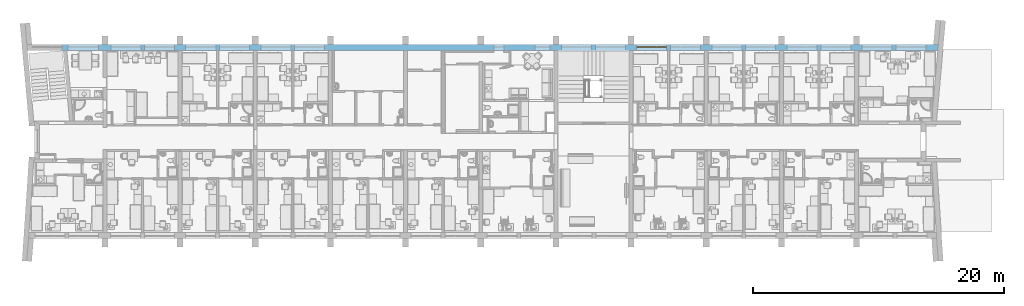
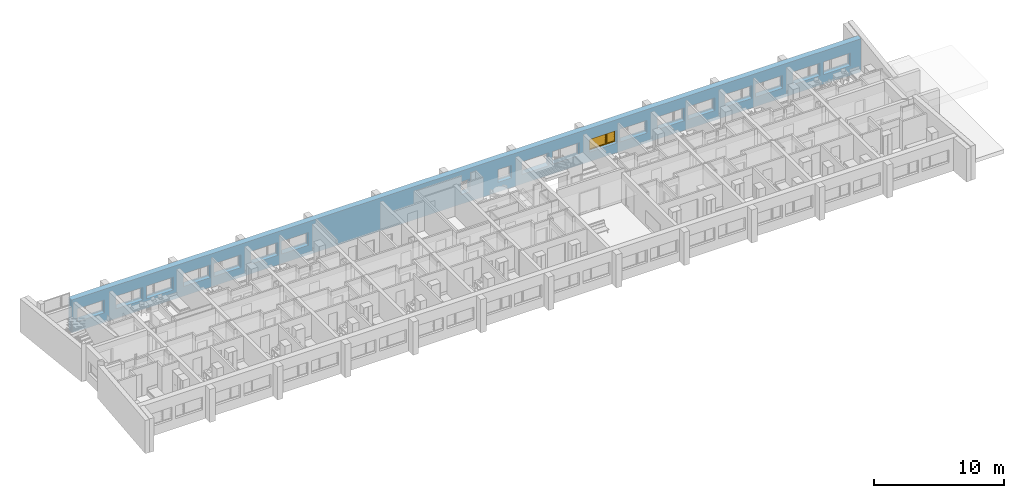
# One storey, part 26 of 172: 1 window, 19 openings, plus 1 element that does not belong to this part.
"""IFC2X3 building model written with IfcOpenShell, lengths in millimetres."""

from ifc_helpers import new_model, entity, si_unit, converted_unit, money_unit, direction, frame, origin_with_axes, place, context, subcontext, project, spatial, polyline, outline, extrude, open_shell, faceted_brep, surface_model, source, transform, mapped, material, material_list, layer, layer_set, layer_usage, type_object, element, fill, save


model = new_model("IFC2X3")

# Units and contexts
model_context = context("Model", 3, precision=1e-05, world=origin_with_axes(), true_north=direction((0.0, 1.0)))
body_context = subcontext(model_context, "Body", "Model", "MODEL_VIEW")
ifc_project = project(units=[si_unit("LENGTHUNIT", "METRE", prefix="MILLI"), si_unit("AREAUNIT", "SQUARE_METRE"), si_unit("VOLUMEUNIT", "CUBIC_METRE"), converted_unit("PLANEANGLEUNIT", "DEGREE", entity("IfcPlaneAngleMeasure", 0.0174532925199), si_unit("PLANEANGLEUNIT", "RADIAN"), dimensions=[0, 0, 0, 0, 0, 0, 0]), si_unit("SOLIDANGLEUNIT", "STERADIAN"), money_unit("USD"), converted_unit("TIMEUNIT", "Year", entity("IfcTimeMeasure", 31556926.0), si_unit("TIMEUNIT", "SECOND"), dimensions=[0, 0, 0, 0, 0, 0, 0]), si_unit("MASSUNIT", "GRAM"), si_unit("THERMODYNAMICTEMPERATUREUNIT", "DEGREE_CELSIUS"), si_unit("LUMINOUSINTENSITYUNIT", "LUMEN")], contexts=[model_context])

# Site, building, storey
site_placement = place(None, origin_with_axes())
site = spatial("IfcSite", under=ifc_project, at=site_placement, Name="Site", CompositionType="ELEMENT")
building_placement = place(site_placement, origin_with_axes())
building = spatial("IfcBuilding", under=site, at=building_placement, Name="Building", CompositionType="ELEMENT")
storey_placement = place(building_placement, frame((0.0, 0.0, 3200.0), z_axis=(0.0, 0.0, 1.0), x_axis=(1.0, 0.0, 0.0)))
storey = spatial("IfcBuildingStorey", under=building, at=storey_placement, Name="3KORRUS", CompositionType="ELEMENT", Elevation=3200.0)

# Wall, openings, window
ifc_material_1 = material(Name="Olemasolevad seinad tellis, uus viimistlus")
ifc_layer = layer(ifc_material_1, 500.0, ventilated="UNKNOWN")
ifc_layer_set = layer_set([ifc_layer], Name="Olemasolevad seinad tellis, uus viimistlus 500")
ifc_layer_usage = layer_usage(ifc_layer_set, "AXIS2", "POSITIVE", -100.0)
wall_type = type_object("IfcWallType", Name="Olemasolevad seinad tellis, uus viimistlus 500", PredefinedType="NOTDEFINED")
wall_placement = place(storey_placement, frame((-51569.3388124, -5039.6041088, 0.0), z_axis=(0.0, 0.0, 1.0), x_axis=(1.0, 0.0, 0.0)))
wall = element("IfcWallStandardCase", 1, at=wall_placement, inside=storey, type_object=wall_type, material=ifc_layer_usage, Name="VS1", ObjectType="VS1", context=body_context, shape_type="SweptSolid", body=[
    extrude(outline(polyline([(0.0, -100.0), (69914.7195482, -100.0), (69959.6995146, 400.0), (0.0, 400.0), (0.0, -100.0)])), origin_with_axes(), (0.0, 0.0, 1.0), 3100.0),
])
opening_1_placement = place(wall_placement, frame((34879.0421091, 0.0, 900.0), z_axis=(0.0, 0.0, 1.0), x_axis=(1.0, 0.0, 0.0)))
element("IfcOpeningElement", 2, at=opening_1_placement, cuts=wall, Name="WD - 001", context=body_context, shape_type="SweptSolid", body=[
    extrude(outline(polyline([(-400.0, 1200.0), (-400.0, 0.0), (400.0, 0.0), (400.0, 1200.0), (-400.0, 1200.0)])), frame((0.0, 200.0, 0.0), z_axis=(0.0, -1.0, 0.0), x_axis=(1.0, 0.0, 0.0)), (0.0, 0.0, 1.0), 800.0),
    extrude(outline(polyline([(-400.0, 0.0), (-400.0, -1200.0), (400.0, -1200.0), (400.0, 0.0), (-400.0, 0.0)])), frame((0.0, 200.0, 0.0), z_axis=(0.0, 1.0, 0.0), x_axis=(1.0, 0.0, 0.0)), (0.0, 0.0, 1.0), 700.0),
])
opening_2_placement = place(wall_placement, frame((38352.6323068, 0.0, 900.0), z_axis=(0.0, 0.0, 1.0), x_axis=(1.0, 0.0, 0.0)))
element("IfcOpeningElement", 3, at=opening_2_placement, cuts=wall, Name="A3", context=body_context, shape_type="SweptSolid", body=[
    extrude(outline(polyline([(-600.0, 1200.0), (-600.0, 0.0), (600.0, 0.0), (600.0, 1200.0), (-600.0, 1200.0)])), frame((0.0, 200.0, 0.0), z_axis=(0.0, -1.0, 0.0), x_axis=(1.0, 0.0, 0.0)), (0.0, 0.0, 1.0), 800.0),
    extrude(outline(polyline([(-600.0, 0.0), (-600.0, -1200.0), (600.0, -1200.0), (600.0, 0.0), (-600.0, 0.0)])), frame((0.0, 200.0, 0.0), z_axis=(0.0, 1.0, 0.0), x_axis=(1.0, 0.0, 0.0)), (0.0, 0.0, 1.0), 700.0),
])
opening_3_placement = place(wall_placement, frame((1700.0, 0.0, 900.0), z_axis=(0.0, 0.0, 1.0), x_axis=(1.0, 0.0, 0.0)))
element("IfcOpeningElement", 4, at=opening_3_placement, cuts=wall, Name="A1", context=body_context, shape_type="SweptSolid", body=[
    extrude(outline(polyline([(1200.0, 1200.0), (-1200.0, 1200.0), (-1200.0, 0.0), (1200.0, 0.0), (1200.0, 1200.0)])), frame((0.0, 200.0, 0.0), z_axis=(0.0, -1.0, 0.0), x_axis=(1.0, 0.0, 0.0)), (0.0, 0.0, 1.0), 800.0),
    extrude(outline(polyline([(1200.0, 0.0), (-1200.0, 0.0), (-1200.0, -1200.0), (1200.0, -1200.0), (1200.0, 0.0)])), frame((0.0, 200.0, 0.0), z_axis=(0.0, 1.0, 0.0), x_axis=(1.0, 0.0, 0.0)), (0.0, 0.0, 1.0), 700.0),
])
opening_4_placement = place(wall_placement, frame((7795.91085613, 0.0, 900.0), z_axis=(0.0, 0.0, 1.0), x_axis=(1.0, 0.0, 0.0)))
element("IfcOpeningElement", 5, at=opening_4_placement, cuts=wall, Name="A1", context=body_context, shape_type="SweptSolid", body=[
    extrude(outline(polyline([(1200.0, 1200.0), (-1200.0, 1200.0), (-1200.0, 0.0), (1200.0, 0.0), (1200.0, 1200.0)])), frame((0.0, 200.0, 0.0), z_axis=(0.0, -1.0, 0.0), x_axis=(1.0, 0.0, 0.0)), (0.0, 0.0, 1.0), 800.0),
    extrude(outline(polyline([(1200.0, 0.0), (-1200.0, 0.0), (-1200.0, -1200.0), (1200.0, -1200.0), (1200.0, 0.0)])), frame((0.0, 200.0, 0.0), z_axis=(0.0, 1.0, 0.0), x_axis=(1.0, 0.0, 0.0)), (0.0, 0.0, 1.0), 700.0),
])
opening_5_placement = place(wall_placement, frame((5095.91085613, 0.0, 900.0), z_axis=(0.0, 0.0, 1.0), x_axis=(1.0, 0.0, 0.0)))
element("IfcOpeningElement", 6, at=opening_5_placement, cuts=wall, Name="A2", context=body_context, shape_type="SweptSolid", body=[
    extrude(outline(polyline([(-1200.0, 1200.0), (-1200.0, 0.0), (1200.0, 0.0), (1200.0, 1200.0), (-1200.0, 1200.0)])), frame((0.0, 200.0, 0.0), z_axis=(0.0, -1.0, 0.0), x_axis=(1.0, 0.0, 0.0)), (0.0, 0.0, 1.0), 800.0),
    extrude(outline(polyline([(-1200.0, 0.0), (-1200.0, -1200.0), (1200.0, -1200.0), (1200.0, 0.0), (-1200.0, 0.0)])), frame((0.0, 200.0, 0.0), z_axis=(0.0, 1.0, 0.0), x_axis=(1.0, 0.0, 0.0)), (0.0, 0.0, 1.0), 700.0),
])
opening_6_placement = place(wall_placement, frame((13779.0421091, 0.0, 900.0), z_axis=(0.0, 0.0, 1.0), x_axis=(1.0, 0.0, 0.0)))
element("IfcOpeningElement", 7, at=opening_6_placement, cuts=wall, Name="A1", context=body_context, shape_type="SweptSolid", body=[
    extrude(outline(polyline([(1200.0, 1200.0), (-1200.0, 1200.0), (-1200.0, 0.0), (1200.0, 0.0), (1200.0, 1200.0)])), frame((0.0, 200.0, 0.0), z_axis=(0.0, -1.0, 0.0), x_axis=(1.0, 0.0, 0.0)), (0.0, 0.0, 1.0), 800.0),
    extrude(outline(polyline([(1200.0, 0.0), (-1200.0, 0.0), (-1200.0, -1200.0), (1200.0, -1200.0), (1200.0, 0.0)])), frame((0.0, 200.0, 0.0), z_axis=(0.0, 1.0, 0.0), x_axis=(1.0, 0.0, 0.0)), (0.0, 0.0, 1.0), 700.0),
])
opening_7_placement = place(wall_placement, frame((11079.0421091, 0.0, 900.0), z_axis=(0.0, 0.0, 1.0), x_axis=(1.0, 0.0, 0.0)))
element("IfcOpeningElement", 8, at=opening_7_placement, cuts=wall, Name="A2", context=body_context, shape_type="SweptSolid", body=[
    extrude(outline(polyline([(-1200.0, 1200.0), (-1200.0, 0.0), (1200.0, 0.0), (1200.0, 1200.0), (-1200.0, 1200.0)])), frame((0.0, 200.0, 0.0), z_axis=(0.0, -1.0, 0.0), x_axis=(1.0, 0.0, 0.0)), (0.0, 0.0, 1.0), 800.0),
    extrude(outline(polyline([(-1200.0, 0.0), (-1200.0, -1200.0), (1200.0, -1200.0), (1200.0, 0.0), (-1200.0, 0.0)])), frame((0.0, 200.0, 0.0), z_axis=(0.0, 1.0, 0.0), x_axis=(1.0, 0.0, 0.0)), (0.0, 0.0, 1.0), 700.0),
])
opening_8_placement = place(wall_placement, frame((43769.0421091, 0.0, 900.0), z_axis=(0.0, 0.0, 1.0), x_axis=(1.0, 0.0, 0.0)))
element("IfcOpeningElement", 9, at=opening_8_placement, cuts=wall, Name="A1", context=body_context, shape_type="SweptSolid", body=[
    extrude(outline(polyline([(1200.0, 1200.0), (-1200.0, 1200.0), (-1200.0, 0.0), (1200.0, 0.0), (1200.0, 1200.0)])), frame((0.0, 200.0, 0.0), z_axis=(0.0, -1.0, 0.0), x_axis=(1.0, 0.0, 0.0)), (0.0, 0.0, 1.0), 800.0),
    extrude(outline(polyline([(1200.0, 0.0), (-1200.0, 0.0), (-1200.0, -1200.0), (1200.0, -1200.0), (1200.0, 0.0)])), frame((0.0, 200.0, 0.0), z_axis=(0.0, 1.0, 0.0), x_axis=(1.0, 0.0, 0.0)), (0.0, 0.0, 1.0), 700.0),
])
opening_9_placement = place(wall_placement, frame((41069.0421091, 0.0, 900.0), z_axis=(0.0, 0.0, 1.0), x_axis=(1.0, 0.0, 0.0)))
element("IfcOpeningElement", 10, at=opening_9_placement, cuts=wall, Name="A2", context=body_context, shape_type="SweptSolid", body=[
    extrude(outline(polyline([(-1200.0, 1200.0), (-1200.0, 0.0), (1200.0, 0.0), (1200.0, 1200.0), (-1200.0, 1200.0)])), frame((0.0, 200.0, 0.0), z_axis=(0.0, -1.0, 0.0), x_axis=(1.0, 0.0, 0.0)), (0.0, 0.0, 1.0), 800.0),
    extrude(outline(polyline([(-1200.0, 0.0), (-1200.0, -1200.0), (1200.0, -1200.0), (1200.0, 0.0), (-1200.0, 0.0)])), frame((0.0, 200.0, 0.0), z_axis=(0.0, 1.0, 0.0), x_axis=(1.0, 0.0, 0.0)), (0.0, 0.0, 1.0), 700.0),
])
opening_10_placement = place(wall_placement, frame((49769.0421091, 0.0, 900.0), z_axis=(0.0, 0.0, 1.0), x_axis=(1.0, 0.0, 0.0)))
element("IfcOpeningElement", 11, at=opening_10_placement, cuts=wall, Name="A1", context=body_context, shape_type="SweptSolid", body=[
    extrude(outline(polyline([(1200.0, 1200.0), (-1200.0, 1200.0), (-1200.0, 0.0), (1200.0, 0.0), (1200.0, 1200.0)])), frame((0.0, 200.0, 0.0), z_axis=(0.0, -1.0, 0.0), x_axis=(1.0, 0.0, 0.0)), (0.0, 0.0, 1.0), 800.0),
    extrude(outline(polyline([(1200.0, 0.0), (-1200.0, 0.0), (-1200.0, -1200.0), (1200.0, -1200.0), (1200.0, 0.0)])), frame((0.0, 200.0, 0.0), z_axis=(0.0, 1.0, 0.0), x_axis=(1.0, 0.0, 0.0)), (0.0, 0.0, 1.0), 700.0),
])
opening_11_placement = place(wall_placement, frame((47069.0421091, 0.0, 900.0), z_axis=(0.0, 0.0, 1.0), x_axis=(1.0, 0.0, 0.0)))
opening_11 = element("IfcOpeningElement", 12, at=opening_11_placement, cuts=wall, Name="A2", context=body_context, shape_type="SweptSolid", body=[
    extrude(outline(polyline([(-1200.0, 1200.0), (-1200.0, 0.0), (1200.0, 0.0), (1200.0, 1200.0), (-1200.0, 1200.0)])), frame((0.0, 200.0, 0.0), z_axis=(0.0, -1.0, 0.0), x_axis=(1.0, 0.0, 0.0)), (0.0, 0.0, 1.0), 800.0),
    extrude(outline(polyline([(-1200.0, 0.0), (-1200.0, -1200.0), (1200.0, -1200.0), (1200.0, 0.0), (-1200.0, 0.0)])), frame((0.0, 200.0, 0.0), z_axis=(0.0, 1.0, 0.0), x_axis=(1.0, 0.0, 0.0)), (0.0, 0.0, 1.0), 700.0),
])
opening_12_placement = place(wall_placement, frame((55769.0421091, 0.0, 900.0), z_axis=(0.0, 0.0, 1.0), x_axis=(1.0, 0.0, 0.0)))
element("IfcOpeningElement", 13, at=opening_12_placement, cuts=wall, Name="A1", context=body_context, shape_type="SweptSolid", body=[
    extrude(outline(polyline([(1200.0, 1200.0), (-1200.0, 1200.0), (-1200.0, 0.0), (1200.0, 0.0), (1200.0, 1200.0)])), frame((0.0, 200.0, 0.0), z_axis=(0.0, -1.0, 0.0), x_axis=(1.0, 0.0, 0.0)), (0.0, 0.0, 1.0), 800.0),
    extrude(outline(polyline([(1200.0, 0.0), (-1200.0, 0.0), (-1200.0, -1200.0), (1200.0, -1200.0), (1200.0, 0.0)])), frame((0.0, 200.0, 0.0), z_axis=(0.0, 1.0, 0.0), x_axis=(1.0, 0.0, 0.0)), (0.0, 0.0, 1.0), 700.0),
])
opening_13_placement = place(wall_placement, frame((53069.0421091, 0.0, 900.0), z_axis=(0.0, 0.0, 1.0), x_axis=(1.0, 0.0, 0.0)))
element("IfcOpeningElement", 14, at=opening_13_placement, cuts=wall, Name="A2", context=body_context, shape_type="SweptSolid", body=[
    extrude(outline(polyline([(-1200.0, 1200.0), (-1200.0, 0.0), (1200.0, 0.0), (1200.0, 1200.0), (-1200.0, 1200.0)])), frame((0.0, 200.0, 0.0), z_axis=(0.0, -1.0, 0.0), x_axis=(1.0, 0.0, 0.0)), (0.0, 0.0, 1.0), 800.0),
    extrude(outline(polyline([(-1200.0, 0.0), (-1200.0, -1200.0), (1200.0, -1200.0), (1200.0, 0.0), (-1200.0, 0.0)])), frame((0.0, 200.0, 0.0), z_axis=(0.0, 1.0, 0.0), x_axis=(1.0, 0.0, 0.0)), (0.0, 0.0, 1.0), 700.0),
])
opening_14_placement = place(wall_placement, frame((61769.0421091, 0.0, 900.0), z_axis=(0.0, 0.0, 1.0), x_axis=(1.0, 0.0, 0.0)))
element("IfcOpeningElement", 15, at=opening_14_placement, cuts=wall, Name="A1", context=body_context, shape_type="SweptSolid", body=[
    extrude(outline(polyline([(1200.0, 1200.0), (-1200.0, 1200.0), (-1200.0, 0.0), (1200.0, 0.0), (1200.0, 1200.0)])), frame((0.0, 200.0, 0.0), z_axis=(0.0, -1.0, 0.0), x_axis=(1.0, 0.0, 0.0)), (0.0, 0.0, 1.0), 800.0),
    extrude(outline(polyline([(1200.0, 0.0), (-1200.0, 0.0), (-1200.0, -1200.0), (1200.0, -1200.0), (1200.0, 0.0)])), frame((0.0, 200.0, 0.0), z_axis=(0.0, 1.0, 0.0), x_axis=(1.0, 0.0, 0.0)), (0.0, 0.0, 1.0), 700.0),
])
opening_15_placement = place(wall_placement, frame((59069.0421091, 0.0, 900.0), z_axis=(0.0, 0.0, 1.0), x_axis=(1.0, 0.0, 0.0)))
element("IfcOpeningElement", 16, at=opening_15_placement, cuts=wall, Name="A2", context=body_context, shape_type="SweptSolid", body=[
    extrude(outline(polyline([(-1200.0, 1200.0), (-1200.0, 0.0), (1200.0, 0.0), (1200.0, 1200.0), (-1200.0, 1200.0)])), frame((0.0, 200.0, 0.0), z_axis=(0.0, -1.0, 0.0), x_axis=(1.0, 0.0, 0.0)), (0.0, 0.0, 1.0), 800.0),
    extrude(outline(polyline([(-1200.0, 0.0), (-1200.0, -1200.0), (1200.0, -1200.0), (1200.0, 0.0), (-1200.0, 0.0)])), frame((0.0, 200.0, 0.0), z_axis=(0.0, 1.0, 0.0), x_axis=(1.0, 0.0, 0.0)), (0.0, 0.0, 1.0), 700.0),
])
opening_16_placement = place(wall_placement, frame((67773.3244043, 0.0, 900.0), z_axis=(0.0, 0.0, 1.0), x_axis=(1.0, 0.0, 0.0)))
element("IfcOpeningElement", 17, at=opening_16_placement, cuts=wall, Name="A1", context=body_context, shape_type="SweptSolid", body=[
    extrude(outline(polyline([(1200.0, 1200.0), (-1200.0, 1200.0), (-1200.0, 0.0), (1200.0, 0.0), (1200.0, 1200.0)])), frame((0.0, 200.0, 0.0), z_axis=(0.0, -1.0, 0.0), x_axis=(1.0, 0.0, 0.0)), (0.0, 0.0, 1.0), 800.0),
    extrude(outline(polyline([(1200.0, 0.0), (-1200.0, 0.0), (-1200.0, -1200.0), (1200.0, -1200.0), (1200.0, 0.0)])), frame((0.0, 200.0, 0.0), z_axis=(0.0, 1.0, 0.0), x_axis=(1.0, 0.0, 0.0)), (0.0, 0.0, 1.0), 700.0),
])
opening_17_placement = place(wall_placement, frame((65073.3244043, 0.0, 900.0), z_axis=(0.0, 0.0, 1.0), x_axis=(1.0, 0.0, 0.0)))
element("IfcOpeningElement", 18, at=opening_17_placement, cuts=wall, Name="A2", context=body_context, shape_type="SweptSolid", body=[
    extrude(outline(polyline([(-1200.0, 1200.0), (-1200.0, 0.0), (1200.0, 0.0), (1200.0, 1200.0), (-1200.0, 1200.0)])), frame((0.0, 200.0, 0.0), z_axis=(0.0, -1.0, 0.0), x_axis=(1.0, 0.0, 0.0)), (0.0, 0.0, 1.0), 800.0),
    extrude(outline(polyline([(-1200.0, 0.0), (-1200.0, -1200.0), (1200.0, -1200.0), (1200.0, 0.0), (-1200.0, 0.0)])), frame((0.0, 200.0, 0.0), z_axis=(0.0, 1.0, 0.0), x_axis=(1.0, 0.0, 0.0)), (0.0, 0.0, 1.0), 700.0),
])
opening_18_placement = place(wall_placement, frame((19767.4765851, 0.0, 900.0), z_axis=(0.0, 0.0, 1.0), x_axis=(1.0, 0.0, 0.0)))
element("IfcOpeningElement", 19, at=opening_18_placement, cuts=wall, Name="A1", context=body_context, shape_type="SweptSolid", body=[
    extrude(outline(polyline([(1200.0, 1200.0), (-1200.0, 1200.0), (-1200.0, 0.0), (1200.0, 0.0), (1200.0, 1200.0)])), frame((0.0, 200.0, 0.0), z_axis=(0.0, -1.0, 0.0), x_axis=(1.0, 0.0, 0.0)), (0.0, 0.0, 1.0), 800.0),
    extrude(outline(polyline([(1200.0, 0.0), (-1200.0, 0.0), (-1200.0, -1200.0), (1200.0, -1200.0), (1200.0, 0.0)])), frame((0.0, 200.0, 0.0), z_axis=(0.0, 1.0, 0.0), x_axis=(1.0, 0.0, 0.0)), (0.0, 0.0, 1.0), 700.0),
])
opening_19_placement = place(wall_placement, frame((17067.4765851, 0.0, 900.0), z_axis=(0.0, 0.0, 1.0), x_axis=(1.0, 0.0, 0.0)))
element("IfcOpeningElement", 20, at=opening_19_placement, cuts=wall, Name="A2", context=body_context, shape_type="SweptSolid", body=[
    extrude(outline(polyline([(-1200.0, 1200.0), (-1200.0, 0.0), (1200.0, 0.0), (1200.0, 1200.0), (-1200.0, 1200.0)])), frame((0.0, 200.0, 0.0), z_axis=(0.0, -1.0, 0.0), x_axis=(1.0, 0.0, 0.0)), (0.0, 0.0, 1.0), 800.0),
    extrude(outline(polyline([(-1200.0, 0.0), (-1200.0, -1200.0), (1200.0, -1200.0), (1200.0, 0.0), (-1200.0, 0.0)])), frame((0.0, 200.0, 0.0), z_axis=(0.0, 1.0, 0.0), x_axis=(1.0, 0.0, 0.0)), (0.0, 0.0, 1.0), 700.0),
])
ifc_material_2 = material(Name="Background")
ifc_material_list = material_list([ifc_material_2])
window_style = type_object("IfcWindowStyle", Name="Double Window 19", ConstructionType="NOTDEFINED", OperationType="DOUBLE_PANEL_VERTICAL", ParameterTakesPrecedence=False, Sizeable=False)
shared_shape = source(origin_with_axes(), body_context, "Body", "SurfaceModel", [
    faceted_brep([(-1175.0, -200.0, 1150.0), (-1200.0, -200.0, 1150.0), (-1200.0, -250.0, 1150.0), (-1150.0, -250.0, 1150.0), (-1150.0, -225.0, 1150.0), (-1175.0, -225.0, 1150.0), (-1175.0, -200.0, 50.0), (-1200.0, -200.0, 50.0), (-1200.0, -250.0, 50.0), (-1150.0, -250.0, 50.0), (-1150.0, -225.0, 50.0), (-1175.0, -225.0, 50.0)], [[[0, 1, 2, 3, 4, 5]], [[6, 7, 1, 0]], [[1, 7, 8, 2]], [[2, 8, 9, 3]], [[4, 3, 9, 10]], [[10, 11, 5, 4]], [[5, 11, 6, 0]], [[11, 10, 9, 8, 7, 6]]]),
    faceted_brep([(1150.0, -225.0, 1150.0), (1150.0, -250.0, 1150.0), (1200.0, -250.0, 1150.0), (1200.0, -200.0, 1150.0), (1175.0, -200.0, 1150.0), (1175.0, -225.0, 1150.0), (1150.0, -225.0, 50.0), (1150.0, -250.0, 50.0), (1200.0, -250.0, 50.0), (1200.0, -200.0, 50.0), (1175.0, -200.0, 50.0), (1175.0, -225.0, 50.0)], [[[0, 1, 2, 3, 4, 5]], [[6, 7, 1, 0]], [[8, 2, 1, 7]], [[9, 3, 2, 8]], [[4, 3, 9, 10]], [[10, 11, 5, 4]], [[5, 11, 6, 0]], [[11, 10, 9, 8, 7, 6]]]),
    faceted_brep([(350.0, -225.0, 1150.0), (350.0, -250.0, 1150.0), (450.0, -250.0, 1150.0), (450.0, -225.0, 1150.0), (425.0, -225.0, 1150.0), (425.0, -200.0, 1150.0), (375.0, -200.0, 1150.0), (375.0, -225.0, 1150.0), (350.0, -225.0, 50.0), (350.0, -250.0, 50.0), (450.0, -250.0, 50.0), (450.0, -225.0, 50.0), (425.0, -225.0, 50.0), (425.0, -200.0, 50.0), (375.0, -200.0, 50.0), (375.0, -225.0, 50.0)], [[[0, 1, 2, 3, 4, 5, 6, 7]], [[8, 9, 1, 0]], [[10, 2, 1, 9]], [[3, 2, 10, 11]], [[11, 12, 4, 3]], [[4, 12, 13, 5]], [[6, 5, 13, 14]], [[14, 15, 7, 6]], [[7, 15, 8, 0]], [[15, 14, 13, 12, 11, 10, 9, 8]]]),
    faceted_brep([(350.0, -225.0, 50.0), (350.0, -250.0, 50.0), (450.0, -250.0, 50.0), (450.0, -225.0, 50.0), (425.0, -225.0, 50.0), (425.0, -200.0, 50.0), (375.0, -200.0, 50.0), (375.0, -225.0, 50.0), (-1150.0, -225.0, 50.0), (-1150.0, -250.0, 50.0), (-1200.0, -250.0, 50.0), (-1200.0, -250.0, 0.0), (1200.0, -250.0, 0.0), (1200.0, -250.0, 50.0), (1150.0, -250.0, 50.0), (1150.0, -225.0, 50.0), (1175.0, -225.0, 50.0), (1175.0, -225.0, 25.0), (425.0, -225.0, 25.0), (425.0, -200.0, 25.0), (-1175.0, -200.0, 25.0), (375.0, -200.0, 25.0), (1175.0, -200.0, 25.0), (1175.0, -200.0, 50.0), (1200.0, -200.0, 50.0), (1200.0, -200.0, 0.0), (-1200.0, -200.0, 0.0), (-1200.0, -200.0, 50.0), (-1175.0, -200.0, 50.0), (375.0, -225.0, 25.0), (-1175.0, -225.0, 25.0), (-1175.0, -225.0, 50.0)], [[[0, 1, 2, 3, 4, 5, 6, 7]], [[8, 9, 1, 0]], [[10, 11, 12, 13, 14, 2, 1, 9]], [[3, 2, 14, 15]], [[16, 17, 18, 4, 3, 15]], [[4, 18, 19, 5]], [[20, 21, 6, 5, 19, 22, 23, 24, 25, 26, 27, 28]], [[21, 29, 7, 6]], [[7, 29, 30, 31, 8, 0]], [[31, 28, 27, 10, 9, 8]], [[27, 26, 11, 10]], [[26, 25, 12, 11]], [[25, 24, 13, 12]], [[15, 14, 13, 24, 23, 16]], [[22, 17, 16, 23]], [[19, 18, 17, 22]], [[20, 30, 29, 21]], [[31, 30, 20, 28]]]),
    faceted_brep([(-1175.0, -200.0, 1150.0), (-1200.0, -200.0, 1150.0), (-1200.0, -200.0, 1200.0), (1200.0, -200.0, 1200.0), (1200.0, -200.0, 1150.0), (1175.0, -200.0, 1150.0), (1175.0, -200.0, 1175.0), (425.0, -200.0, 1175.0), (425.0, -200.0, 1150.0), (375.0, -200.0, 1150.0), (375.0, -200.0, 1175.0), (-1175.0, -200.0, 1175.0), (-1175.0, -225.0, 1150.0), (-1150.0, -225.0, 1150.0), (-1150.0, -250.0, 1150.0), (-1200.0, -250.0, 1150.0), (-1200.0, -250.0, 1200.0), (1200.0, -250.0, 1200.0), (1200.0, -250.0, 1150.0), (1175.0, -225.0, 1150.0), (1150.0, -250.0, 1150.0), (1150.0, -225.0, 1150.0), (1175.0, -225.0, 1175.0), (425.0, -225.0, 1175.0), (425.0, -225.0, 1150.0), (375.0, -225.0, 1150.0), (450.0, -225.0, 1150.0), (450.0, -250.0, 1150.0), (350.0, -250.0, 1150.0), (350.0, -225.0, 1150.0), (375.0, -225.0, 1175.0), (-1175.0, -225.0, 1175.0)], [[[0, 1, 2, 3, 4, 5, 6, 7, 8, 9, 10, 11]], [[12, 13, 14, 15, 1, 0]], [[2, 1, 15, 16]], [[3, 2, 16, 17]], [[4, 3, 17, 18]], [[19, 5, 4, 18, 20, 21]], [[5, 19, 22, 6]], [[6, 22, 23, 7]], [[7, 23, 24, 8]], [[25, 9, 8, 24, 26, 27, 28, 29]], [[9, 25, 30, 10]], [[10, 30, 31, 11]], [[11, 31, 12, 0]], [[29, 13, 12, 31, 30, 25]], [[29, 28, 14, 13]], [[27, 20, 18, 17, 16, 15, 14, 28]], [[21, 20, 27, 26]], [[21, 26, 24, 23, 22, 19]]]),
    faceted_brep([(-1125.0, -225.0, 1125.0), (-1125.0, -175.0, 1125.0), (-1175.0, -175.0, 1125.0), (-1175.0, -225.0, 1125.0), (-1125.0, -225.0, 75.0), (-1125.0, -175.0, 75.0), (-1175.0, -175.0, 75.0), (-1175.0, -225.0, 75.0)], [[[0, 1, 2, 3]], [[4, 5, 1, 0]], [[1, 5, 6, 2]], [[3, 2, 6, 7]], [[0, 3, 7, 4]], [[7, 6, 5, 4]]]),
    faceted_brep([(325.0, -225.0, 75.0), (325.0, -175.0, 75.0), (375.0, -175.0, 75.0), (375.0, -225.0, 75.0), (325.0, -225.0, 1125.0), (325.0, -175.0, 1125.0), (375.0, -175.0, 1125.0), (375.0, -225.0, 1125.0)], [[[0, 1, 2, 3]], [[4, 5, 1, 0]], [[1, 5, 6, 2]], [[3, 2, 6, 7]], [[0, 3, 7, 4]], [[7, 6, 5, 4]]]),
    faceted_brep([(375.0, -225.0, 25.0), (375.0, -175.0, 25.0), (375.0, -175.0, 75.0), (375.0, -225.0, 75.0), (-1175.0, -225.0, 25.0), (-1175.0, -175.0, 25.0), (-1175.0, -175.0, 75.0), (-1125.0, -175.0, 75.0), (325.0, -175.0, 75.0), (325.0, -225.0, 75.0), (-1125.0, -225.0, 75.0), (-1175.0, -225.0, 75.0)], [[[0, 1, 2, 3]], [[4, 5, 1, 0]], [[1, 5, 6, 7, 8, 2]], [[3, 2, 8, 9]], [[0, 3, 9, 10, 11, 4]], [[11, 6, 5, 4]], [[10, 7, 6, 11]], [[9, 8, 7, 10]]]),
    faceted_brep([(-1175.0, -225.0, 1175.0), (-1175.0, -175.0, 1175.0), (-1175.0, -175.0, 1125.0), (-1175.0, -225.0, 1125.0), (375.0, -225.0, 1175.0), (375.0, -175.0, 1175.0), (375.0, -175.0, 1125.0), (325.0, -175.0, 1125.0), (-1125.0, -175.0, 1125.0), (-1125.0, -225.0, 1125.0), (325.0, -225.0, 1125.0), (375.0, -225.0, 1125.0)], [[[0, 1, 2, 3]], [[4, 5, 1, 0]], [[1, 5, 6, 7, 8, 2]], [[3, 2, 8, 9]], [[0, 3, 9, 10, 11, 4]], [[11, 6, 5, 4]], [[10, 7, 6, 11]], [[9, 8, 7, 10]]]),
    surface_model("IfcShellBasedSurfaceModel", [(-1125.0, -210.0, 75.0), (325.0, -210.0, 75.0), (325.0, -210.0, 1125.0), (-1125.0, -210.0, 1125.0)], [open_shell([[[0, 1, 2, 3]]])]),
    surface_model("IfcShellBasedSurfaceModel", [(-1125.0, -190.0, 75.0), (-1125.0, -190.0, 1125.0), (325.0, -190.0, 1125.0), (325.0, -190.0, 75.0)], [open_shell([[[0, 1, 2, 3]]])]),
    faceted_brep([(475.0, -225.0, 1125.0), (475.0, -175.0, 1125.0), (425.0, -175.0, 1125.0), (425.0, -225.0, 1125.0), (475.0, -225.0, 75.0), (475.0, -175.0, 75.0), (425.0, -175.0, 75.0), (425.0, -225.0, 75.0)], [[[0, 1, 2, 3]], [[4, 5, 1, 0]], [[1, 5, 6, 2]], [[3, 2, 6, 7]], [[0, 3, 7, 4]], [[7, 6, 5, 4]]]),
    faceted_brep([(1125.0, -225.0, 75.0), (1125.0, -175.0, 75.0), (1175.0, -175.0, 75.0), (1175.0, -225.0, 75.0), (1125.0, -225.0, 1125.0), (1125.0, -175.0, 1125.0), (1175.0, -175.0, 1125.0), (1175.0, -225.0, 1125.0)], [[[0, 1, 2, 3]], [[4, 5, 1, 0]], [[1, 5, 6, 2]], [[3, 2, 6, 7]], [[0, 3, 7, 4]], [[7, 6, 5, 4]]]),
    faceted_brep([(1175.0, -225.0, 25.0), (1175.0, -175.0, 25.0), (1175.0, -175.0, 75.0), (1175.0, -225.0, 75.0), (425.0, -225.0, 25.0), (425.0, -175.0, 25.0), (425.0, -175.0, 75.0), (475.0, -175.0, 75.0), (1125.0, -175.0, 75.0), (1125.0, -225.0, 75.0), (475.0, -225.0, 75.0), (425.0, -225.0, 75.0)], [[[0, 1, 2, 3]], [[4, 5, 1, 0]], [[1, 5, 6, 7, 8, 2]], [[3, 2, 8, 9]], [[0, 3, 9, 10, 11, 4]], [[11, 6, 5, 4]], [[10, 7, 6, 11]], [[9, 8, 7, 10]]]),
    faceted_brep([(425.0, -225.0, 1175.0), (425.0, -175.0, 1175.0), (425.0, -175.0, 1125.0), (425.0, -225.0, 1125.0), (1175.0, -225.0, 1175.0), (1175.0, -175.0, 1175.0), (1175.0, -175.0, 1125.0), (1125.0, -175.0, 1125.0), (475.0, -175.0, 1125.0), (475.0, -225.0, 1125.0), (1125.0, -225.0, 1125.0), (1175.0, -225.0, 1125.0)], [[[0, 1, 2, 3]], [[4, 5, 1, 0]], [[1, 5, 6, 7, 8, 2]], [[3, 2, 8, 9]], [[0, 3, 9, 10, 11, 4]], [[11, 6, 5, 4]], [[10, 7, 6, 11]], [[9, 8, 7, 10]]]),
    surface_model("IfcShellBasedSurfaceModel", [(475.0, -210.0, 75.0), (1125.0, -210.0, 75.0), (1125.0, -210.0, 1125.0), (475.0, -210.0, 1125.0)], [open_shell([[[0, 1, 2, 3]]])]),
    surface_model("IfcShellBasedSurfaceModel", [(475.0, -190.0, 75.0), (475.0, -190.0, 1125.0), (1125.0, -190.0, 1125.0), (1125.0, -190.0, 75.0)], [open_shell([[[0, 1, 2, 3]]])]),
])
window_placement = place(opening_11_placement, frame((-1200.0, 0.0, 0.0), z_axis=(0.0, 0.0, 1.0), x_axis=(1.0, 0.0, 0.0)))
window = element("IfcWindow", 21, at=window_placement, inside=storey, type_object=window_style, material=ifc_material_list, Name="A2", ObjectType="A2", OverallHeight=1200.0, OverallWidth=2400.0, context=body_context, shape_type="MappedRepresentation", body=[
    mapped(shared_shape, transform((1200.0, 400.0, 0.0))),
])
fill(opening_11, window)

save(model, "model.ifc")
